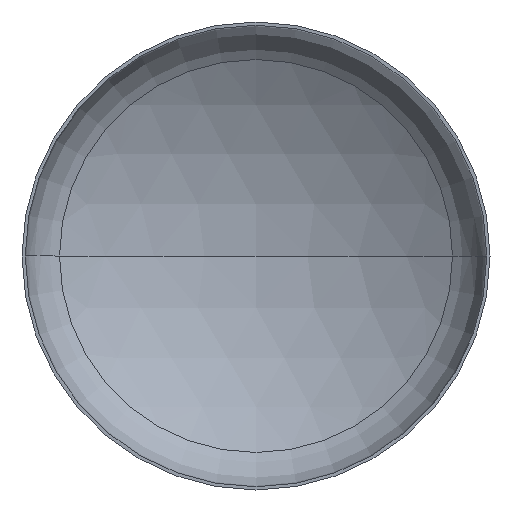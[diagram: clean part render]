
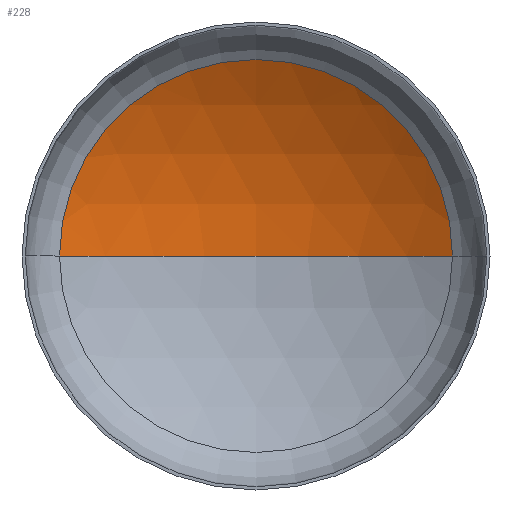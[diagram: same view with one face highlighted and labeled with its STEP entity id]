
A CAD part, front view. The second image highlights one B-rep face of the part: STEP entity #228.
In plain terms, the highlighted spherical face has radius 4000 mm.
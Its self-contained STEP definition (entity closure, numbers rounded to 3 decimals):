
#11 = EDGE_LOOP ( 'NONE', ( #92, #75, #25 ) ) ;
#19 = CIRCLE ( 'NONE', #32, 4000. ) ;
#24 = DIRECTION ( 'NONE',  ( 1., 0., 0. ) ) ;
#25 = ORIENTED_EDGE ( 'NONE', *, *, #119, .T. ) ;
#28 = AXIS2_PLACEMENT_3D ( 'NONE', #195, #290, #191 ) ;
#32 = AXIS2_PLACEMENT_3D ( 'NONE', #265, #264, #262 ) ;
#37 = VERTEX_POINT ( 'NONE', #270 ) ;
#40 = AXIS2_PLACEMENT_3D ( 'NONE', #218, #219, #231 ) ;
#48 = AXIS2_PLACEMENT_3D ( 'NONE', #238, #266, #24 ) ;
#75 = ORIENTED_EDGE ( 'NONE', *, *, #155, .T. ) ;
#79 = VERTEX_POINT ( 'NONE', #239 ) ;
#92 = ORIENTED_EDGE ( 'NONE', *, *, #170, .F. ) ;
#119 = EDGE_CURVE ( 'NONE', #79, #126, #188, .T. ) ;
#126 = VERTEX_POINT ( 'NONE', #325 ) ;
#155 = EDGE_CURVE ( 'NONE', #37, #79, #182, .T. ) ;
#170 = EDGE_CURVE ( 'NONE', #37, #126, #19, .T. ) ;
#182 = CIRCLE ( 'NONE', #40, 4000. ) ;
#188 = CIRCLE ( 'NONE', #48, 2099.071 ) ;
#191 = DIRECTION ( 'NONE',  ( -1., 0., 0. ) ) ;
#195 = CARTESIAN_POINT ( 'NONE',  ( 0., -2639.523, 0. ) ) ;
#218 = CARTESIAN_POINT ( 'NONE',  ( 0., -2639.523, 0. ) ) ;
#219 = DIRECTION ( 'NONE',  ( 0., 0., -1. ) ) ;
#228 = ADVANCED_FACE ( 'NONE', ( #237 ), #376, .F. ) ;
#231 = DIRECTION ( 'NONE',  ( -1., 0., 0. ) ) ;
#237 = FACE_OUTER_BOUND ( 'NONE', #11, .T. ) ;
#238 = CARTESIAN_POINT ( 'NONE',  ( 0., 765.459, 0. ) ) ;
#239 = CARTESIAN_POINT ( 'NONE',  ( 2099.071, 765.459, 0. ) ) ;
#262 = DIRECTION ( 'NONE',  ( 1., 0., 0. ) ) ;
#264 = DIRECTION ( 'NONE',  ( 0., 0., 1. ) ) ;
#265 = CARTESIAN_POINT ( 'NONE',  ( 0., -2639.523, 0. ) ) ;
#266 = DIRECTION ( 'NONE',  ( 0., -1., 0. ) ) ;
#270 = CARTESIAN_POINT ( 'NONE',  ( 0., 1360.477, 0. ) ) ;
#290 = DIRECTION ( 'NONE',  ( 0., 0., -1. ) ) ;
#325 = CARTESIAN_POINT ( 'NONE',  ( -2099.071, 765.459, 0. ) ) ;
#376 = SPHERICAL_SURFACE ( 'NONE', #28, 4000. ) ;
